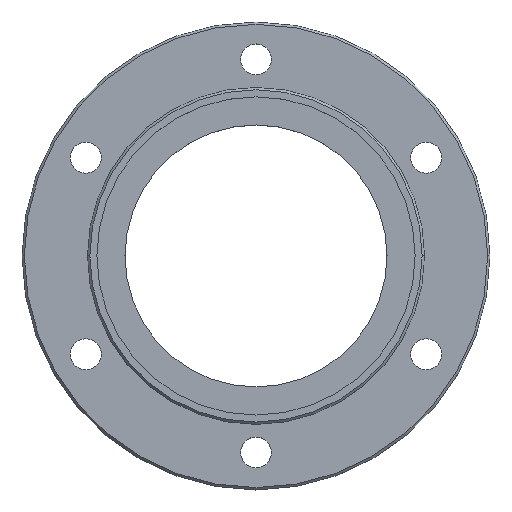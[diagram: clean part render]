
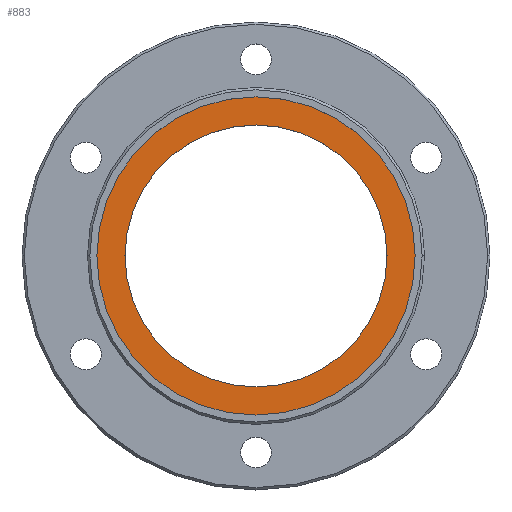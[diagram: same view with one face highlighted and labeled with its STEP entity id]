
A CAD part, top view. The second image highlights one B-rep face of the part: STEP entity #883.
In plain terms, the highlighted planar face has unit normal (0, 0, 1).
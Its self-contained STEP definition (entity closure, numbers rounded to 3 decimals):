
#9 = DIRECTION ( 'NONE',  ( 0., 0., -1. ) ) ;
#14 = CARTESIAN_POINT ( 'NONE',  ( 0., 0., 12. ) ) ;
#18 = CARTESIAN_POINT ( 'NONE',  ( 0., 0., 12. ) ) ;
#113 = VERTEX_POINT ( 'NONE', #442 ) ;
#167 = EDGE_CURVE ( 'NONE', #616, #520, #596, .T. ) ;
#196 = AXIS2_PLACEMENT_3D ( 'NONE', #880, #887, #551 ) ;
#215 = CIRCLE ( 'NONE', #1068, 28. ) ;
#374 = CARTESIAN_POINT ( 'NONE',  ( 0., 0., 12. ) ) ;
#409 = AXIS2_PLACEMENT_3D ( 'NONE', #1517, #462, #950 ) ;
#442 = CARTESIAN_POINT ( 'NONE',  ( 28., 0., 12. ) ) ;
#456 = DIRECTION ( 'NONE',  ( 1., 0., 0. ) ) ;
#462 = DIRECTION ( 'NONE',  ( 0., 0., 1. ) ) ;
#518 = EDGE_CURVE ( 'NONE', #113, #1047, #215, .T. ) ;
#520 = VERTEX_POINT ( 'NONE', #917 ) ;
#551 = DIRECTION ( 'NONE',  ( 1., 0., 0. ) ) ;
#567 = ORIENTED_EDGE ( 'NONE', *, *, #992, .F. ) ;
#579 = FACE_BOUND ( 'NONE', #1116, .T. ) ;
#596 = CIRCLE ( 'NONE', #815, 34. ) ;
#616 = VERTEX_POINT ( 'NONE', #1460 ) ;
#673 = CARTESIAN_POINT ( 'NONE',  ( -28., 0., 12. ) ) ;
#692 = CIRCLE ( 'NONE', #984, 28. ) ;
#727 = EDGE_CURVE ( 'NONE', #520, #616, #1238, .T. ) ;
#815 = AXIS2_PLACEMENT_3D ( 'NONE', #18, #9, #1034 ) ;
#827 = DIRECTION ( 'NONE',  ( 0., 0., 1. ) ) ;
#834 = ORIENTED_EDGE ( 'NONE', *, *, #518, .F. ) ;
#880 = CARTESIAN_POINT ( 'NONE',  ( 0., 0., 12. ) ) ;
#883 = ADVANCED_FACE ( 'NONE', ( #579, #1167 ), #1292, .T. ) ;
#887 = DIRECTION ( 'NONE',  ( 0., 0., -1. ) ) ;
#917 = CARTESIAN_POINT ( 'NONE',  ( -34., 0., 12. ) ) ;
#950 = DIRECTION ( 'NONE',  ( 1., 0., 0. ) ) ;
#984 = AXIS2_PLACEMENT_3D ( 'NONE', #374, #827, #1522 ) ;
#992 = EDGE_CURVE ( 'NONE', #1047, #113, #692, .T. ) ;
#1034 = DIRECTION ( 'NONE',  ( 1., 0., 0. ) ) ;
#1047 = VERTEX_POINT ( 'NONE', #673 ) ;
#1068 = AXIS2_PLACEMENT_3D ( 'NONE', #14, #1521, #456 ) ;
#1088 = ORIENTED_EDGE ( 'NONE', *, *, #727, .F. ) ;
#1101 = EDGE_LOOP ( 'NONE', ( #1088, #1444 ) ) ;
#1116 = EDGE_LOOP ( 'NONE', ( #567, #834 ) ) ;
#1167 = FACE_OUTER_BOUND ( 'NONE', #1101, .T. ) ;
#1238 = CIRCLE ( 'NONE', #196, 34. ) ;
#1292 = PLANE ( 'NONE',  #409 ) ;
#1444 = ORIENTED_EDGE ( 'NONE', *, *, #167, .F. ) ;
#1460 = CARTESIAN_POINT ( 'NONE',  ( 34., 0., 12. ) ) ;
#1517 = CARTESIAN_POINT ( 'NONE',  ( 0., 0., 12. ) ) ;
#1521 = DIRECTION ( 'NONE',  ( 0., 0., 1. ) ) ;
#1522 = DIRECTION ( 'NONE',  ( 1., 0., 0. ) ) ;
